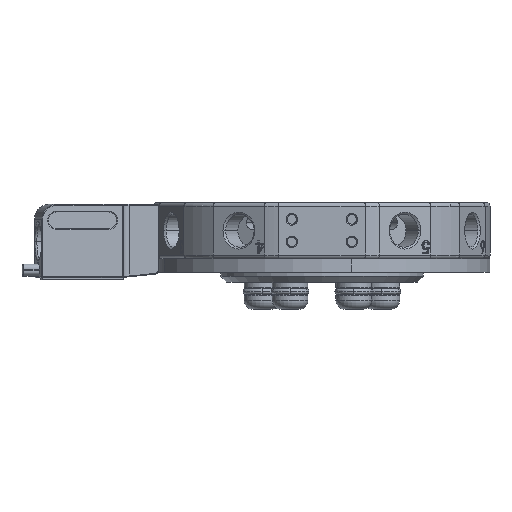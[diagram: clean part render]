
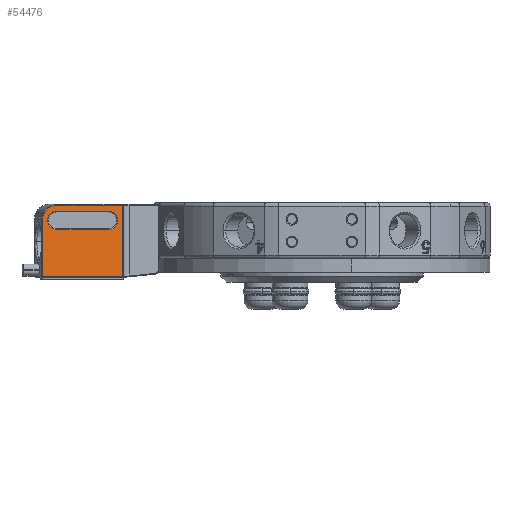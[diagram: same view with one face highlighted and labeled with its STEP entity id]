
A CAD part, front view. The second image highlights one B-rep face of the part: STEP entity #54476.
In plain terms, the highlighted planar face has unit normal (0.174, -0.985, 0).
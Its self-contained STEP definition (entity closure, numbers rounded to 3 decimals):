
#125 = LINE ( 'NONE', #20149, #12208 ) ;
#782 = ORIENTED_EDGE ( 'NONE', *, *, #22571, .T. ) ;
#1792 = ORIENTED_EDGE ( 'NONE', *, *, #16325, .T. ) ;
#1919 = CIRCLE ( 'NONE', #42725, 3.8 ) ;
#2643 = VECTOR ( 'NONE', #16321, 1000. ) ;
#3550 = VECTOR ( 'NONE', #12573, 1000. ) ;
#3732 = DIRECTION ( 'NONE',  ( 0.696, 0.123, -0.707 ) ) ;
#4107 = ORIENTED_EDGE ( 'NONE', *, *, #17481, .T. ) ;
#4429 = DIRECTION ( 'NONE',  ( 0., 0., -1. ) ) ;
#4580 = FACE_OUTER_BOUND ( 'NONE', #20410, .T. ) ;
#5620 = AXIS2_PLACEMENT_3D ( 'NONE', #53034, #25815, #57634 ) ;
#5998 = FACE_BOUND ( 'NONE', #41796, .T. ) ;
#6386 = EDGE_CURVE ( 'NONE', #24732, #43196, #29117, .T. ) ;
#6488 = CARTESIAN_POINT ( 'NONE',  ( -114.413, 25.771, -133.6 ) ) ;
#7164 = CARTESIAN_POINT ( 'NONE',  ( -124.458, 23.999, -152.9 ) ) ;
#7362 = ORIENTED_EDGE ( 'NONE', *, *, #13575, .T. ) ;
#8246 = CIRCLE ( 'NONE', #21426, 2.45 ) ;
#8619 = ORIENTED_EDGE ( 'NONE', *, *, #40356, .T. ) ;
#9334 = AXIS2_PLACEMENT_3D ( 'NONE', #6488, #51940, #24739 ) ;
#11368 = EDGE_CURVE ( 'NONE', #41037, #43814, #8246, .T. ) ;
#11895 = CARTESIAN_POINT ( 'NONE',  ( -141.987, 20.907, -135.4 ) ) ;
#12140 = VERTEX_POINT ( 'NONE', #34253 ) ;
#12208 = VECTOR ( 'NONE', #51911, 1000. ) ;
#12265 = CARTESIAN_POINT ( 'NONE',  ( -145.729, 20.247, -152.817 ) ) ;
#12413 = CARTESIAN_POINT ( 'NONE',  ( -141.987, 20.907, -140.3 ) ) ;
#12542 = EDGE_CURVE ( 'NONE', #43814, #58845, #18579, .T. ) ;
#12573 = DIRECTION ( 'NONE',  ( 0., 0., 1. ) ) ;
#13566 = CARTESIAN_POINT ( 'NONE',  ( -128.2, 23.339, -135.4 ) ) ;
#13575 = EDGE_CURVE ( 'NONE', #55781, #53228, #52588, .T. ) ;
#15231 = EDGE_CURVE ( 'NONE', #58845, #55781, #31864, .T. ) ;
#15904 = CARTESIAN_POINT ( 'NONE',  ( -124.458, 23.999, -133.8 ) ) ;
#16075 = ORIENTED_EDGE ( 'NONE', *, *, #6386, .T. ) ;
#16321 = DIRECTION ( 'NONE',  ( -0.985, -0.174, 0. ) ) ;
#16325 = EDGE_CURVE ( 'NONE', #55337, #20124, #53183, .T. ) ;
#16435 = DIRECTION ( 'NONE',  ( -0.174, 0.985, 0. ) ) ;
#17171 = DIRECTION ( 'NONE',  ( -0.174, 0.985, 0. ) ) ;
#17481 = EDGE_CURVE ( 'NONE', #43196, #12140, #49530, .T. ) ;
#18579 = LINE ( 'NONE', #48301, #29230 ) ;
#20124 = VERTEX_POINT ( 'NONE', #12265 ) ;
#20149 = CARTESIAN_POINT ( 'NONE',  ( -124.458, 23.999, -152.9 ) ) ;
#20183 = PLANE ( 'NONE',  #9334 ) ;
#20410 = EDGE_LOOP ( 'NONE', ( #8619, #47199, #16075, #4107, #782, #1792 ) ) ;
#21426 = AXIS2_PLACEMENT_3D ( 'NONE', #43664, #16435, #48212 ) ;
#21506 = VECTOR ( 'NONE', #33530, 1000. ) ;
#21835 = CARTESIAN_POINT ( 'NONE',  ( -145.59, 20.272, -152.959 ) ) ;
#22571 = EDGE_CURVE ( 'NONE', #12140, #55337, #1919, .T. ) ;
#24732 = VERTEX_POINT ( 'NONE', #7164 ) ;
#24739 = DIRECTION ( 'NONE',  ( 0., 0., -1. ) ) ;
#25815 = DIRECTION ( 'NONE',  ( -0.174, 0.985, 0. ) ) ;
#26492 = CARTESIAN_POINT ( 'NONE',  ( -145.648, 20.262, -152.9 ) ) ;
#28968 = CARTESIAN_POINT ( 'NONE',  ( -141.987, 20.907, -140.3 ) ) ;
#29117 = LINE ( 'NONE', #39806, #3550 ) ;
#29230 = VECTOR ( 'NONE', #43750, 1000. ) ;
#31569 = ORIENTED_EDGE ( 'NONE', *, *, #15231, .T. ) ;
#31597 = DIRECTION ( 'NONE',  ( 0.174, -0.985, 0. ) ) ;
#31864 = CIRCLE ( 'NONE', #5620, 2.45 ) ;
#33094 = VERTEX_POINT ( 'NONE', #26492 ) ;
#33530 = DIRECTION ( 'NONE',  ( -0.985, -0.174, 0. ) ) ;
#34253 = CARTESIAN_POINT ( 'NONE',  ( -141.987, 20.907, -133.8 ) ) ;
#38835 = ORIENTED_EDGE ( 'NONE', *, *, #51016, .T. ) ;
#39806 = CARTESIAN_POINT ( 'NONE',  ( -124.458, 23.999, -133.6 ) ) ;
#40356 = EDGE_CURVE ( 'NONE', #20124, #33094, #42299, .T. ) ;
#41037 = VERTEX_POINT ( 'NONE', #12413 ) ;
#41796 = EDGE_LOOP ( 'NONE', ( #47339, #31569, #7362, #38835, #58023 ) ) ;
#42144 = DIRECTION ( 'NONE',  ( 0., 0., -1. ) ) ;
#42299 = LINE ( 'NONE', #21835, #52910 ) ;
#42563 = VECTOR ( 'NONE', #42144, 1000. ) ;
#42725 = AXIS2_PLACEMENT_3D ( 'NONE', #58841, #31597, #4429 ) ;
#43196 = VERTEX_POINT ( 'NONE', #15904 ) ;
#43664 = CARTESIAN_POINT ( 'NONE',  ( -141.987, 20.907, -137.85 ) ) ;
#43750 = DIRECTION ( 'NONE',  ( 0.985, 0.174, 0. ) ) ;
#43814 = VERTEX_POINT ( 'NONE', #11895 ) ;
#44399 = CARTESIAN_POINT ( 'NONE',  ( -128.2, 23.339, -137.85 ) ) ;
#47061 = LINE ( 'NONE', #28968, #21506 ) ;
#47199 = ORIENTED_EDGE ( 'NONE', *, *, #51663, .T. ) ;
#47339 = ORIENTED_EDGE ( 'NONE', *, *, #12542, .T. ) ;
#48099 = CARTESIAN_POINT ( 'NONE',  ( -114.413, 25.771, -133.8 ) ) ;
#48212 = DIRECTION ( 'NONE',  ( 0., 0., -1. ) ) ;
#48301 = CARTESIAN_POINT ( 'NONE',  ( -114.413, 25.771, -135.4 ) ) ;
#48890 = AXIS2_PLACEMENT_3D ( 'NONE', #44399, #17171, #48944 ) ;
#48944 = DIRECTION ( 'NONE',  ( 0., 0., -1. ) ) ;
#49281 = CARTESIAN_POINT ( 'NONE',  ( -145.729, 20.247, -137.6 ) ) ;
#49530 = LINE ( 'NONE', #48099, #2643 ) ;
#51014 = CARTESIAN_POINT ( 'NONE',  ( -128.2, 23.339, -140.3 ) ) ;
#51016 = EDGE_CURVE ( 'NONE', #53228, #41037, #47061, .T. ) ;
#51263 = CARTESIAN_POINT ( 'NONE',  ( -145.729, 20.247, -133.6 ) ) ;
#51663 = EDGE_CURVE ( 'NONE', #33094, #24732, #125, .T. ) ;
#51911 = DIRECTION ( 'NONE',  ( 0.985, 0.174, 0. ) ) ;
#51940 = DIRECTION ( 'NONE',  ( -0.174, 0.985, 0. ) ) ;
#52588 = CIRCLE ( 'NONE', #48890, 2.45 ) ;
#52910 = VECTOR ( 'NONE', #3732, 1000. ) ;
#53034 = CARTESIAN_POINT ( 'NONE',  ( -128.2, 23.339, -137.85 ) ) ;
#53183 = LINE ( 'NONE', #51263, #42563 ) ;
#53228 = VERTEX_POINT ( 'NONE', #51014 ) ;
#54476 = ADVANCED_FACE ( 'NONE', ( #5998, #4580 ), #20183, .F. ) ;
#55182 = CARTESIAN_POINT ( 'NONE',  ( -125.787, 23.765, -137.85 ) ) ;
#55337 = VERTEX_POINT ( 'NONE', #49281 ) ;
#55781 = VERTEX_POINT ( 'NONE', #55182 ) ;
#57634 = DIRECTION ( 'NONE',  ( 0., 0., -1. ) ) ;
#58023 = ORIENTED_EDGE ( 'NONE', *, *, #11368, .T. ) ;
#58841 = CARTESIAN_POINT ( 'NONE',  ( -141.987, 20.907, -137.6 ) ) ;
#58845 = VERTEX_POINT ( 'NONE', #13566 ) ;
